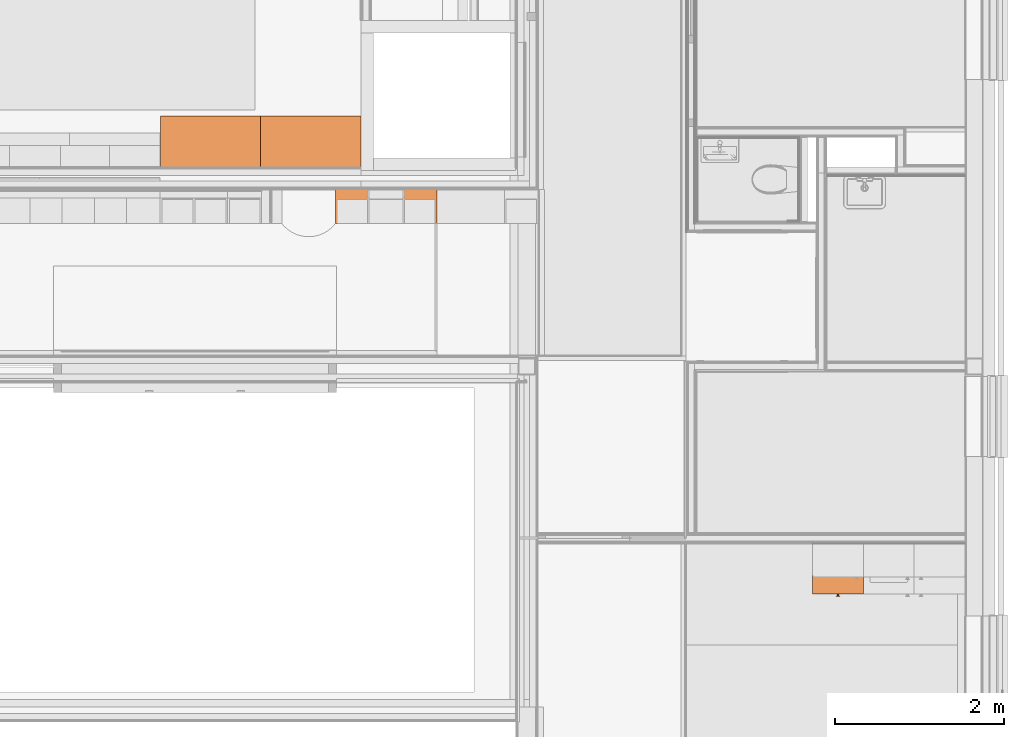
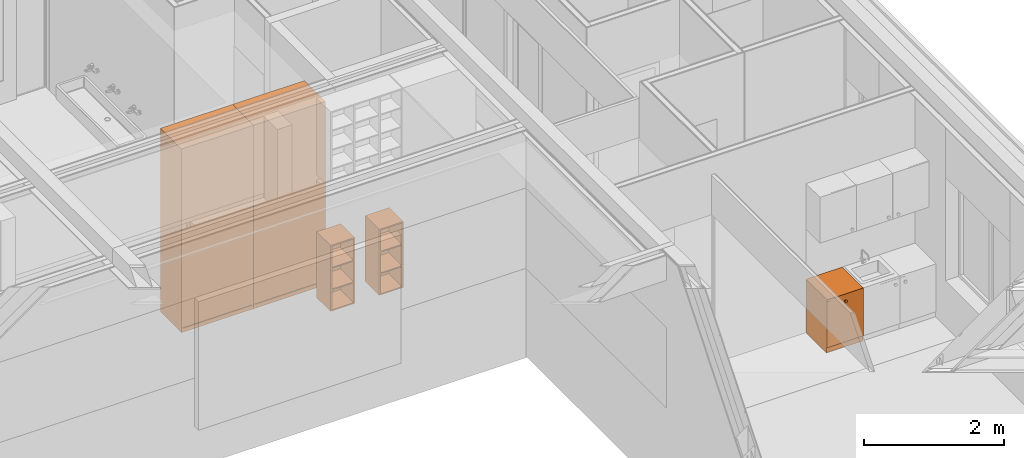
# One storey, part 117 of 137: 5 proxies.
"""IFC2X3 building model written with IfcOpenShell, lengths in millimetres."""

from ifc_helpers import new_model, entity, si_unit, converted_unit, derived_unit, money_unit, direction, frame, origin_with_axes, place, context, subcontext, project, spatial, faceted_brep, source, transform, mapped, type_object, type_shapes, element, save


model = new_model("IFC2X3")

# Units and contexts
model_context = context("Model", 3, precision=0.01, world=origin_with_axes(), true_north=direction((0.0, 1.0)))
body_context = subcontext(model_context, "Body", "Model", "MODEL_VIEW")
ifc_project = project(units=[si_unit("LENGTHUNIT", "METRE", prefix="MILLI"), si_unit("AREAUNIT", "SQUARE_METRE"), si_unit("VOLUMEUNIT", "CUBIC_METRE"), converted_unit("PLANEANGLEUNIT", "DEGREE", entity("IfcPlaneAngleMeasure", 0.0174532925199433), si_unit("PLANEANGLEUNIT", "RADIAN"), dimensions=[0, 0, 0, 0, 0, 0, 0]), money_unit("EUR"), converted_unit("TIMEUNIT", "Year", entity("IfcTimeMeasure", 31556926.0), si_unit("TIMEUNIT", "SECOND"), dimensions=[0, 0, 1, 0, 0, 0, 0]), si_unit("MASSUNIT", "GRAM", prefix="KILO"), si_unit("THERMODYNAMICTEMPERATUREUNIT", "DEGREE_CELSIUS"), si_unit("LUMINOUSINTENSITYUNIT", "LUMEN"), si_unit("ENERGYUNIT", "JOULE", prefix="MEGA"), derived_unit("THERMALCONDUCTANCEUNIT", [(si_unit("POWERUNIT", "WATT"), 1), (si_unit("LENGTHUNIT", "METRE"), -1), (si_unit("THERMODYNAMICTEMPERATUREUNIT", "KELVIN"), -1)]), derived_unit("SPECIFICHEATCAPACITYUNIT", [(si_unit("ENERGYUNIT", "JOULE"), 1), (si_unit("MASSUNIT", "GRAM", prefix="KILO"), -1), (si_unit("THERMODYNAMICTEMPERATUREUNIT", "KELVIN"), -1)]), derived_unit("MASSDENSITYUNIT", [(si_unit("MASSUNIT", "GRAM", prefix="KILO"), 1), (si_unit("VOLUMEUNIT", "CUBIC_METRE"), -1)])], contexts=[model_context])

# Site, building, storey
site_placement = place(None, origin_with_axes())
site = spatial("IfcSite", under=ifc_project, at=site_placement, Name="Site", CompositionType="ELEMENT")
building_placement = place(site_placement, origin_with_axes())
building = spatial("IfcBuilding", under=site, at=building_placement, Name="Naam gebouw", CompositionType="ELEMENT")
storey_placement = place(building_placement, frame((0.0, 0.0, 3960.0), z_axis=(0.0, 0.0, 1.0), x_axis=(1.0, 0.0, 0.0)))
storey = spatial("IfcBuildingStorey", under=building, at=storey_placement, Name="1e verdieping", CompositionType="ELEMENT", Elevation=3960.0)

# Proxies
building_element_proxy_type = type_object("IfcBuildingElementProxyType", Name="Onderkast recht 26", PredefinedType="NOTDEFINED")
shared_shape_1 = source(origin_with_axes(), body_context, "Body", "Brep", [
    faceted_brep([(0.0, -600.0, 900.0), (0.0, -600.0, 935.0), (-600.0, -600.0, 935.0), (-600.0, -600.0, 900.0), (0.0, 0.0, 900.0), (0.0, 0.0, 935.0), (-600.0, 0.0, 935.0), (-600.0, 0.0, 900.0)], [[[0, 1, 2, 3]], [[4, 5, 1, 0]], [[1, 5, 6, 2]], [[3, 2, 6, 7]], [[0, 3, 7, 4]], [[7, 6, 5, 4]]]),
    faceted_brep([(-312.8176930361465, -600.0, 817.9162218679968), (-313.0, -600.0, 820.0), (-312.8176930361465, -600.0, 822.0837781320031), (-312.2763114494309, -600.0, 824.1042417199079), (-311.3923048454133, -600.0, 826.0), (-310.1925333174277, -600.0, 827.7134513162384), (-308.7134513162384, -600.0, 829.1925333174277), (-307.0, -600.0, 830.3923048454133), (-305.104241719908, -600.0, 831.2763114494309), (-303.0837781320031, -600.0, 831.8176930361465), (-301.0, -600.0, 832.0), (-298.9162218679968, -600.0, 831.8176930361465), (-296.895758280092, -600.0, 831.2763114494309), (-295.0, -600.0, 830.3923048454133), (-293.2865486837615, -600.0, 829.1925333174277), (-291.8074666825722, -600.0, 827.7134513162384), (-290.6076951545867, -600.0, 826.0), (-289.7236885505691, -600.0, 824.1042417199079), (-289.1823069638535, -600.0, 822.0837781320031), (-289.0, -600.0, 820.0), (-289.1823069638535, -600.0, 817.9162218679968), (-289.7236885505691, -600.0, 815.895758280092), (-290.6076951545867, -600.0, 814.0), (-291.8074666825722, -600.0, 812.2865486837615), (-293.2865486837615, -600.0, 810.8074666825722), (-295.0, -600.0, 809.6076951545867), (-296.895758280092, -600.0, 808.7236885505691), (-298.9162218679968, -600.0, 808.1823069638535), (-301.0, -600.0, 807.9999999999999), (-303.0837781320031, -600.0, 808.1823069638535), (-305.104241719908, -600.0, 808.7236885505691), (-307.0, -600.0, 809.6076951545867), (-308.7134513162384, -600.0, 810.8074666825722), (-310.1925333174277, -600.0, 812.2865486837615), (-311.3923048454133, -600.0, 814.0), (-312.2763114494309, -600.0, 815.895758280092), (-312.8176930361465, -620.0, 817.9162218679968), (-313.0, -620.0, 820.0), (-312.8176930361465, -620.0, 822.0837781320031), (-312.2763114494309, -620.0, 824.1042417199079), (-311.3923048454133, -620.0, 826.0), (-310.1925333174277, -620.0, 827.7134513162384), (-308.7134513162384, -620.0, 829.1925333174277), (-307.0, -620.0, 830.3923048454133), (-305.104241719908, -620.0, 831.2763114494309), (-303.0837781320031, -620.0, 831.8176930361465), (-301.0, -620.0, 832.0), (-298.9162218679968, -620.0, 831.8176930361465), (-296.895758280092, -620.0, 831.2763114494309), (-295.0, -620.0, 830.3923048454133), (-293.2865486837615, -620.0, 829.1925333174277), (-291.8074666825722, -620.0, 827.7134513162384), (-290.6076951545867, -620.0, 826.0), (-289.7236885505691, -620.0, 824.1042417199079), (-289.1823069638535, -620.0, 822.0837781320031), (-289.0, -620.0, 820.0), (-289.1823069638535, -620.0, 817.9162218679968), (-289.7236885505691, -620.0, 815.895758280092), (-290.6076951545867, -620.0, 814.0), (-291.8074666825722, -620.0, 812.2865486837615), (-293.2865486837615, -620.0, 810.8074666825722), (-295.0, -620.0, 809.6076951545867), (-296.895758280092, -620.0, 808.7236885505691), (-298.9162218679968, -620.0, 808.1823069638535), (-301.0, -620.0, 807.9999999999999), (-303.0837781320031, -620.0, 808.1823069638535), (-305.104241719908, -620.0, 808.7236885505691), (-307.0, -620.0, 809.6076951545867), (-308.7134513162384, -620.0, 810.8074666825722), (-310.1925333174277, -620.0, 812.2865486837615), (-311.3923048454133, -620.0, 814.0), (-312.2763114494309, -620.0, 815.895758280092)], [[[0, 1, 2, 3, 4, 5, 6, 7, 8, 9, 10, 11, 12, 13, 14, 15, 16, 17, 18, 19, 20, 21, 22, 23, 24, 25, 26, 27, 28, 29, 30, 31, 32, 33, 34, 35]], [[0, 36, 37, 1]], [[1, 37, 38, 2]], [[2, 38, 39, 3]], [[3, 39, 40, 4]], [[4, 40, 41, 5]], [[5, 41, 42, 6]], [[6, 42, 43, 7]], [[7, 43, 44, 8]], [[8, 44, 45, 9]], [[9, 45, 46, 10]], [[10, 46, 47, 11]], [[11, 47, 48, 12]], [[12, 48, 49, 13]], [[13, 49, 50, 14]], [[14, 50, 51, 15]], [[15, 51, 52, 16]], [[16, 52, 53, 17]], [[17, 53, 54, 18]], [[18, 54, 55, 19]], [[19, 55, 56, 20]], [[20, 56, 57, 21]], [[21, 57, 58, 22]], [[22, 58, 59, 23]], [[23, 59, 60, 24]], [[24, 60, 61, 25]], [[25, 61, 62, 26]], [[26, 62, 63, 27]], [[27, 63, 64, 28]], [[28, 64, 65, 29]], [[29, 65, 66, 30]], [[30, 66, 67, 31]], [[31, 67, 68, 32]], [[32, 68, 69, 33]], [[33, 69, 70, 34]], [[34, 70, 71, 35]], [[35, 71, 36, 0]], [[36, 71, 70, 69, 68, 67, 66, 65, 64, 63, 62, 61, 60, 59, 58, 57, 56, 55, 54, 53, 52, 51, 50, 49, 48, 47, 46, 45, 44, 43, 42, 41, 40, 39, 38, 37]]]),
    faceted_brep([(-324.6353860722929, -620.0, 815.8324437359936), (-325.0, -620.0, 820.0), (-324.635386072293, -620.0, 824.1675562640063), (-323.5526228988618, -620.0, 828.2084834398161), (-321.7846096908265, -620.0, 832.0), (-319.3850666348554, -620.0, 835.4269026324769), (-316.4269026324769, -620.0, 838.3850666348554), (-313.0, -620.0, 840.7846096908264), (-309.2084834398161, -620.0, 842.5526228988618), (-305.1675562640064, -620.0, 843.6353860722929), (-301.0, -620.0, 844.0), (-296.8324437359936, -620.0, 843.6353860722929), (-292.7915165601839, -620.0, 842.5526228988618), (-289.0, -620.0, 840.7846096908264), (-285.5730973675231, -620.0, 838.3850666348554), (-282.6149333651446, -620.0, 835.4269026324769), (-280.2153903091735, -620.0, 832.0), (-278.4473771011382, -620.0, 828.2084834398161), (-277.364613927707, -620.0, 824.1675562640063), (-277.0, -620.0, 820.0), (-277.364613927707, -620.0, 815.8324437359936), (-278.4473771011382, -620.0, 811.7915165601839), (-280.2153903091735, -620.0, 807.9999999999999), (-282.6149333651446, -620.0, 804.573097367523), (-285.5730973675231, -620.0, 801.6149333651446), (-289.0, -620.0, 799.2153903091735), (-292.7915165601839, -620.0, 797.4473771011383), (-296.8324437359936, -620.0, 796.364613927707), (-301.0, -620.0, 796.0), (-305.1675562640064, -620.0, 796.364613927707), (-309.208483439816, -620.0, 797.4473771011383), (-312.9999999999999, -620.0, 799.2153903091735), (-316.4269026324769, -620.0, 801.6149333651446), (-319.3850666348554, -620.0, 804.573097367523), (-321.7846096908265, -620.0, 807.9999999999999), (-323.5526228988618, -620.0, 811.7915165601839), (-324.6353860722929, -630.0, 815.8324437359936), (-325.0, -630.0, 820.0), (-324.635386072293, -630.0, 824.1675562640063), (-323.5526228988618, -630.0, 828.2084834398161), (-321.7846096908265, -630.0, 832.0), (-319.3850666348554, -630.0, 835.4269026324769), (-316.4269026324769, -630.0, 838.3850666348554), (-313.0, -630.0, 840.7846096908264), (-309.2084834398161, -630.0, 842.5526228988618), (-305.1675562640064, -630.0, 843.6353860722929), (-301.0, -630.0, 844.0), (-296.8324437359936, -630.0, 843.6353860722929), (-292.7915165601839, -630.0, 842.5526228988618), (-289.0, -630.0, 840.7846096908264), (-285.5730973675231, -630.0, 838.3850666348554), (-282.6149333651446, -630.0, 835.4269026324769), (-280.2153903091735, -630.0, 832.0), (-278.4473771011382, -630.0, 828.2084834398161), (-277.364613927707, -630.0, 824.1675562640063), (-277.0, -630.0, 820.0), (-277.364613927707, -630.0, 815.8324437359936), (-278.4473771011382, -630.0, 811.7915165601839), (-280.2153903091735, -630.0, 807.9999999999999), (-282.6149333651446, -630.0, 804.573097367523), (-285.5730973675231, -630.0, 801.6149333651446), (-289.0, -630.0, 799.2153903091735), (-292.7915165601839, -630.0, 797.4473771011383), (-296.8324437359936, -630.0, 796.364613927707), (-301.0, -630.0, 796.0), (-305.1675562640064, -630.0, 796.364613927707), (-309.208483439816, -630.0, 797.4473771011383), (-312.9999999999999, -630.0, 799.2153903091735), (-316.4269026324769, -630.0, 801.6149333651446), (-319.3850666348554, -630.0, 804.573097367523), (-321.7846096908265, -630.0, 807.9999999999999), (-323.5526228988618, -630.0, 811.7915165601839)], [[[0, 1, 2, 3, 4, 5, 6, 7, 8, 9, 10, 11, 12, 13, 14, 15, 16, 17, 18, 19, 20, 21, 22, 23, 24, 25, 26, 27, 28, 29, 30, 31, 32, 33, 34, 35]], [[0, 36, 37, 1]], [[1, 37, 38, 2]], [[2, 38, 39, 3]], [[3, 39, 40, 4]], [[4, 40, 41, 5]], [[5, 41, 42, 6]], [[6, 42, 43, 7]], [[7, 43, 44, 8]], [[8, 44, 45, 9]], [[9, 45, 46, 10]], [[10, 46, 47, 11]], [[11, 47, 48, 12]], [[12, 48, 49, 13]], [[13, 49, 50, 14]], [[14, 50, 51, 15]], [[15, 51, 52, 16]], [[16, 52, 53, 17]], [[17, 53, 54, 18]], [[18, 54, 55, 19]], [[19, 55, 56, 20]], [[20, 56, 57, 21]], [[21, 57, 58, 22]], [[22, 58, 59, 23]], [[23, 59, 60, 24]], [[24, 60, 61, 25]], [[25, 61, 62, 26]], [[26, 62, 63, 27]], [[27, 63, 64, 28]], [[28, 64, 65, 29]], [[29, 65, 66, 30]], [[30, 66, 67, 31]], [[31, 67, 68, 32]], [[32, 68, 69, 33]], [[33, 69, 70, 34]], [[34, 70, 71, 35]], [[35, 71, 36, 0]], [[36, 71, 70, 69, 68, 67, 66, 65, 64, 63, 62, 61, 60, 59, 58, 57, 56, 55, 54, 53, 52, 51, 50, 49, 48, 47, 46, 45, 44, 43, 42, 41, 40, 39, 38, 37]]]),
    faceted_brep([(-1.0, -582.0, 101.0), (-1.0, -600.0, 101.0), (-599.0, -600.0, 101.0), (-599.0, -582.0, 101.0), (-1.0, -582.0, 899.0), (-1.0, -599.9999999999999, 899.0), (-599.0, -599.9999999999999, 899.0), (-599.0, -582.0, 899.0)], [[[0, 1, 2, 3]], [[4, 5, 1, 0]], [[1, 5, 6, 2]], [[3, 2, 6, 7]], [[0, 3, 7, 4]], [[7, 6, 5, 4]]]),
    faceted_brep([(-18.0, -582.0, 100.0), (-18.0, -582.0, 118.0), (-582.0, -582.0, 118.0), (-582.0, -582.0, 100.0), (-18.0, 0.0, 100.0), (-18.0, 0.0, 118.0), (-582.0, 0.0, 118.0), (-582.0, 0.0, 100.0)], [[[0, 1, 2, 3]], [[4, 5, 1, 0]], [[1, 5, 6, 2]], [[3, 2, 6, 7]], [[0, 3, 7, 4]], [[7, 6, 5, 4]]]),
    faceted_brep([(-18.0, -582.0, 882.0), (-582.0, -582.0, 882.0), (-582.0, -522.0, 882.0), (-18.0, -522.0, 882.0), (-18.0, -582.0, 900.0), (-582.0, -582.0, 900.0), (-582.0, -522.0, 900.0), (-18.0, -522.0, 900.0)], [[[0, 1, 2, 3]], [[4, 5, 1, 0]], [[1, 5, 6, 2]], [[3, 2, 6, 7]], [[0, 3, 7, 4]], [[7, 6, 5, 4]]]),
    faceted_brep([(-582.0, 0.0, 882.0), (-18.0, 0.0, 882.0), (-18.0, -60.0, 882.0), (-582.0, -60.0, 882.0), (-582.0, 0.0, 900.0), (-18.0, 0.0, 900.0), (-18.0, -60.0, 900.0), (-582.0, -60.0, 900.0)], [[[0, 1, 2, 3]], [[4, 5, 1, 0]], [[1, 5, 6, 2]], [[3, 2, 6, 7]], [[0, 3, 7, 4]], [[7, 6, 5, 4]]]),
    faceted_brep([(0.0, 0.0, 100.0), (0.0, 0.0, 900.0), (0.0, -582.0, 900.0), (0.0, -582.0, 100.0), (-18.0, 0.0, 100.0), (-18.0, 0.0, 900.0), (-18.0, -582.0, 900.0), (-18.0, -582.0, 100.0)], [[[0, 1, 2, 3]], [[4, 5, 1, 0]], [[1, 5, 6, 2]], [[3, 2, 6, 7]], [[0, 3, 7, 4]], [[7, 6, 5, 4]]]),
    faceted_brep([(-600.0, -582.0, 100.0), (-600.0, -582.0, 900.0), (-600.0, 0.0, 900.0), (-600.0, 0.0, 100.0), (-582.0, -582.0, 100.0), (-582.0, -582.0, 900.0), (-582.0, 0.0, 900.0), (-582.0, 0.0, 100.0)], [[[0, 1, 2, 3]], [[4, 5, 1, 0]], [[1, 5, 6, 2]], [[3, 2, 6, 7]], [[0, 3, 7, 4]], [[7, 6, 5, 4]]]),
    faceted_brep([(-582.0, -9.0, 118.0), (-582.0, -9.0, 882.0), (-18.00000000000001, -9.0, 882.0), (-18.00000000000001, -9.0, 118.0), (-582.0, -18.0, 118.0), (-582.0, -18.0, 882.0), (-18.00000000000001, -18.0, 882.0), (-18.00000000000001, -18.0, 118.0)], [[[0, 1, 2, 3]], [[4, 5, 1, 0]], [[1, 5, 6, 2]], [[3, 2, 6, 7]], [[0, 3, 7, 4]], [[7, 6, 5, 4]]]),
    faceted_brep([(0.0, -582.0, 0.0), (0.0, -582.0, 100.0), (-600.0, -582.0, 100.0), (-600.0, -582.0, 0.0), (0.0, 0.0, 0.0), (0.0, 0.0, 100.0), (-600.0, 0.0, 100.0), (-600.0, 0.0, 0.0)], [[[0, 1, 2, 3]], [[4, 5, 1, 0]], [[1, 5, 6, 2]], [[3, 2, 6, 7]], [[0, 3, 7, 4]], [[7, 6, 5, 4]]]),
])
proxy_placement = place(storey_placement, frame((28485.99999999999, 8715.0, 0.0), z_axis=(0.0, 0.0, 1.0), x_axis=(1.0, 0.0, 0.0)))
element("IfcBuildingElementProxy", 1, at=proxy_placement, inside=storey, type_object=building_element_proxy_type, Name="_Leeg", context=body_context, shape_type="MappedRepresentation", body=[
    mapped(shared_shape_1, transform((0.0, 0.0, 0.0))),
])
shared_shape_2 = source(origin_with_axes(), body_context, "Body", "Brep", [
    faceted_brep([(-20.0, -399.9999999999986, 366.6666666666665), (-20.0, -399.9999999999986, 384.6666666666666), (-379.9999999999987, -399.9999999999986, 384.6666666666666), (-379.9999999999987, -399.9999999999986, 366.6666666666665), (-20.0, -20.0, 366.6666666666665), (-20.0, -20.0, 384.6666666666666), (-379.9999999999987, -20.0, 384.6666666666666), (-379.9999999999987, -20.0, 366.6666666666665)], [[[0, 1, 2, 3]], [[4, 5, 1, 0]], [[1, 5, 6, 2]], [[3, 2, 6, 7]], [[0, 3, 7, 4]], [[7, 6, 5, 4]]]),
    faceted_brep([(-20.0, -399.9999999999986, 743.3333333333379), (-20.0, -399.9999999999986, 761.3333333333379), (-379.9999999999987, -399.9999999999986, 761.3333333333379), (-379.9999999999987, -399.9999999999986, 743.3333333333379), (-20.0, -20.0, 743.3333333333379), (-20.0, -20.0, 761.3333333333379), (-379.9999999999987, -20.0, 761.3333333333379), (-379.9999999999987, -20.0, 743.3333333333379)], [[[0, 1, 2, 3]], [[4, 5, 1, 0]], [[1, 5, 6, 2]], [[3, 2, 6, 7]], [[0, 3, 7, 4]], [[7, 6, 5, 4]]]),
    faceted_brep([(-20.0, -399.9999999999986, 0.0), (-20.0, -399.9999999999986, 20.0), (-379.9999999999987, -399.9999999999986, 20.0), (-379.9999999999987, -399.9999999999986, 0.0), (-20.0, 0.0, 0.0), (-20.0, 0.0, 20.0), (-379.9999999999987, 0.0, 20.0), (-379.9999999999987, 0.0, 0.0)], [[[0, 1, 2, 3]], [[4, 5, 1, 0]], [[1, 5, 6, 2]], [[3, 2, 6, 7]], [[0, 3, 7, 4]], [[7, 6, 5, 4]]]),
    faceted_brep([(-20.0, -399.9999999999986, 1129.999999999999), (-20.0, -399.9999999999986, 1149.999999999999), (-379.9999999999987, -399.9999999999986, 1149.999999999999), (-379.9999999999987, -399.9999999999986, 1129.999999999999), (-20.0, 0.0, 1129.999999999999), (-20.0, 0.0, 1149.999999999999), (-379.9999999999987, 0.0, 1149.999999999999), (-379.9999999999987, 0.0, 1129.999999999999)], [[[0, 1, 2, 3]], [[4, 5, 1, 0]], [[1, 5, 6, 2]], [[3, 2, 6, 7]], [[0, 3, 7, 4]], [[7, 6, 5, 4]]]),
    faceted_brep([(0.0, 0.0, 0.0), (0.0, 0.0, 1149.999999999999), (0.0, -399.9999999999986, 1149.999999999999), (0.0, -399.9999999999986, 0.0), (-20.0, 0.0, 0.0), (-20.0, 0.0, 1149.999999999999), (-20.0, -399.9999999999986, 1149.999999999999), (-20.0, -399.9999999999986, 0.0)], [[[0, 1, 2, 3]], [[4, 5, 1, 0]], [[1, 5, 6, 2]], [[3, 2, 6, 7]], [[0, 3, 7, 4]], [[7, 6, 5, 4]]]),
    faceted_brep([(-399.9999999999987, -399.9999999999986, 0.0), (-399.9999999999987, -399.9999999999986, 1149.999999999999), (-399.9999999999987, 0.0, 1149.999999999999), (-399.9999999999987, 0.0, 0.0), (-379.9999999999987, -399.9999999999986, 0.0), (-379.9999999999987, -399.9999999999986, 1149.999999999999), (-379.9999999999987, 0.0, 1149.999999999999), (-379.9999999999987, 0.0, 0.0)], [[[0, 1, 2, 3]], [[4, 5, 1, 0]], [[1, 5, 6, 2]], [[3, 2, 6, 7]], [[0, 3, 7, 4]], [[7, 6, 5, 4]]]),
    faceted_brep([(-379.9999999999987, -10.0, 20.0), (-379.9999999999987, -10.0, 1129.999999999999), (-20.00000000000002, -10.0, 1129.999999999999), (-20.00000000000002, -10.0, 20.0), (-379.9999999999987, -20.0, 20.0), (-379.9999999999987, -20.0, 1129.999999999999), (-20.00000000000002, -20.0, 1129.999999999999), (-20.00000000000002, -20.0, 20.0)], [[[0, 1, 2, 3]], [[4, 5, 1, 0]], [[1, 5, 6, 2]], [[3, 2, 6, 7]], [[0, 3, 7, 4]], [[7, 6, 5, 4]]]),
])
for number, where, z_axis, x_axis in (
    (2, (23434.99903999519, 12904.99778166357, 49.99999999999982), (0.0, 0.0, 1.0), (1.0, 0.0, 0.0)),
    (3, (22634.99903999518, 12904.99778166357, 49.99999999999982), (0.0, 0.0, 1.0), (1.0, 0.0, 0.0)),
):
    element("IfcBuildingElementProxy", number, at=place(storey_placement, frame(where, z_axis=z_axis, x_axis=x_axis)), inside=storey, type_object=building_element_proxy_type, Name="_Leeg", context=body_context, shape_type="MappedRepresentation", body=[
        mapped(shared_shape_2, transform((0.0, 0.0, 0.0))),
    ])
shared_shape_3 = source(origin_with_axes(), body_context, "Body", "Brep", [
    faceted_brep([(20.0, -564.0000000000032, 731.6666666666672), (1165.0, -564.0000000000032, 731.6666666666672), (1165.0, -564.0000000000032, 749.6666666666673), (20.0, -564.0000000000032, 749.6666666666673), (20.0, -20.0, 731.6666666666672), (1165.0, -20.0, 731.6666666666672), (1165.0, -20.0, 749.6666666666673), (20.0, -20.0, 749.6666666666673)], [[[0, 1, 2, 3]], [[0, 4, 5, 1]], [[1, 5, 6, 2]], [[3, 2, 6, 7]], [[4, 0, 3, 7]], [[5, 4, 7, 6]]]),
    faceted_brep([(20.0, -564.0000000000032, 1411.333333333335), (1165.0, -564.0000000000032, 1411.333333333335), (1165.0, -564.0000000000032, 1429.333333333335), (20.0, -564.0000000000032, 1429.333333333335), (20.0, -20.0, 1411.333333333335), (1165.0, -20.0, 1411.333333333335), (1165.0, -20.0, 1429.333333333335), (20.0, -20.0, 1429.333333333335)], [[[0, 1, 2, 3]], [[0, 4, 5, 1]], [[1, 5, 6, 2]], [[3, 2, 6, 7]], [[4, 0, 3, 7]], [[5, 4, 7, 6]]]),
    faceted_brep([(20.0, -600.0000000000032, 2091.000000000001), (1165.0, -600.0000000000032, 2091.000000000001), (1165.0, -600.0000000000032, 2109.000000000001), (20.0, -600.0000000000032, 2109.000000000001), (20.0, -20.0, 2091.000000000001), (1165.0, -20.0, 2091.000000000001), (1165.0, -20.0, 2109.000000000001), (20.0, -20.0, 2109.000000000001)], [[[0, 1, 2, 3]], [[0, 4, 5, 1]], [[1, 5, 6, 2]], [[3, 2, 6, 7]], [[4, 0, 3, 7]], [[5, 4, 7, 6]]]),
    faceted_brep([(20.0, -564.0000000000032, 2635.500000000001), (1165.0, -564.0000000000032, 2635.500000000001), (1165.0, -564.0000000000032, 2653.5), (20.0, -564.0000000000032, 2653.5), (20.0, -20.0, 2635.500000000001), (1165.0, -20.0, 2635.500000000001), (1165.0, -20.0, 2653.5), (20.0, -20.0, 2653.5)], [[[0, 1, 2, 3]], [[0, 4, 5, 1]], [[1, 5, 6, 2]], [[3, 2, 6, 7]], [[4, 0, 3, 7]], [[5, 4, 7, 6]]]),
    faceted_brep([(21.0, -582.0000000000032, 71.00000000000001), (601.5, -582.0000000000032, 71.00000000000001), (601.5, -600.0000000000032, 71.00000000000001), (21.0, -600.0000000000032, 71.00000000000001), (21.0, -582.0000000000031, 2090.000000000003), (601.5, -582.0000000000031, 2090.000000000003), (601.5, -600.0000000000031, 2090.000000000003), (21.0, -600.0000000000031, 2090.000000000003)], [[[0, 1, 2, 3]], [[0, 4, 5, 1]], [[1, 5, 6, 2]], [[3, 2, 6, 7]], [[4, 0, 3, 7]], [[5, 4, 7, 6]]]),
    faceted_brep([(583.5, -564.0000000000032, 71.00000000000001), (1164.0, -564.0000000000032, 71.00000000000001), (1164.0, -582.0000000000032, 71.00000000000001), (583.5, -582.0000000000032, 71.00000000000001), (583.5, -564.0000000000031, 2090.000000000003), (1164.0, -564.0000000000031, 2090.000000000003), (1164.0, -582.0000000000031, 2090.000000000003), (583.5, -582.0000000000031, 2090.000000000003)], [[[0, 1, 2, 3]], [[0, 4, 5, 1]], [[1, 5, 6, 2]], [[3, 2, 6, 7]], [[4, 0, 3, 7]], [[5, 4, 7, 6]]]),
    faceted_brep([(21.0, -582.0000000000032, 2110.000000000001), (601.5, -582.0000000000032, 2110.000000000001), (601.5, -600.0000000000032, 2110.000000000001), (21.0, -600.0000000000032, 2110.000000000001), (21.0, -582.0000000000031, 3179.0), (601.5, -582.0000000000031, 3179.0), (601.5, -600.0000000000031, 3179.0), (21.0, -600.0000000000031, 3179.0)], [[[0, 1, 2, 3]], [[0, 4, 5, 1]], [[1, 5, 6, 2]], [[3, 2, 6, 7]], [[4, 0, 3, 7]], [[5, 4, 7, 6]]]),
    faceted_brep([(583.5, -564.0000000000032, 2110.000000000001), (1164.0, -564.0000000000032, 2110.000000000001), (1164.0, -582.0000000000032, 2110.000000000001), (583.5, -582.0000000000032, 2110.000000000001), (583.5, -564.0000000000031, 3179.0), (1164.0, -564.0000000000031, 3179.0), (1164.0, -582.0000000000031, 3179.0), (583.5, -582.0000000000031, 3179.0)], [[[0, 1, 2, 3]], [[0, 4, 5, 1]], [[1, 5, 6, 2]], [[3, 2, 6, 7]], [[4, 0, 3, 7]], [[5, 4, 7, 6]]]),
    faceted_brep([(20.0, -600.0000000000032, 50.0), (1165.0, -600.0000000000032, 50.0), (1165.0, -600.0000000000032, 70.0), (20.0, -600.0000000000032, 70.0), (20.0, 0.0, 50.0), (1165.0, 0.0, 50.0), (1165.0, 0.0, 70.0), (20.0, 0.0, 70.0)], [[[0, 1, 2, 3]], [[0, 4, 5, 1]], [[1, 5, 6, 2]], [[3, 2, 6, 7]], [[4, 0, 3, 7]], [[5, 4, 7, 6]]]),
    faceted_brep([(20.0, -600.0000000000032, 3180.0), (1165.0, -600.0000000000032, 3180.0), (1165.0, -600.0000000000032, 3200.0), (20.0, -600.0000000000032, 3200.0), (20.0, 0.0, 3180.0), (1165.0, 0.0, 3180.0), (1165.0, 0.0, 3200.0), (20.0, 0.0, 3200.0)], [[[0, 1, 2, 3]], [[0, 4, 5, 1]], [[1, 5, 6, 2]], [[3, 2, 6, 7]], [[4, 0, 3, 7]], [[5, 4, 7, 6]]]),
    faceted_brep([(0.0, 0.0, 50.0), (0.0, -600.0000000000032, 50.0), (0.0, -600.0000000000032, 3200.0), (0.0, 0.0, 3200.0), (20.0, 0.0, 50.0), (20.0, -600.0000000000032, 50.0), (20.0, -600.0000000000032, 3200.0), (20.0, 0.0, 3200.0)], [[[0, 1, 2, 3]], [[0, 4, 5, 1]], [[1, 5, 6, 2]], [[3, 2, 6, 7]], [[4, 0, 3, 7]], [[5, 4, 7, 6]]]),
    faceted_brep([(1185.0, -600.0000000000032, 50.0), (1185.0, 0.0, 50.0), (1185.0, 0.0, 3200.0), (1185.0, -600.0000000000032, 3200.0), (1165.0, -600.0000000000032, 50.0), (1165.0, 0.0, 50.0), (1165.0, 0.0, 3200.0), (1165.0, -600.0000000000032, 3200.0)], [[[0, 1, 2, 3]], [[0, 4, 5, 1]], [[1, 5, 6, 2]], [[3, 2, 6, 7]], [[4, 0, 3, 7]], [[5, 4, 7, 6]]]),
    faceted_brep([(1165.0, -10.0, 70.0), (20.00000000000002, -10.0, 70.0), (20.00000000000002, -10.0, 3180.0), (1165.0, -10.0, 3180.0), (1165.0, -20.0, 70.0), (20.00000000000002, -20.0, 70.0), (20.00000000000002, -20.0, 3180.0), (1165.0, -20.0, 3180.0)], [[[0, 1, 2, 3]], [[0, 4, 5, 1]], [[1, 5, 6, 2]], [[3, 2, 6, 7]], [[4, 0, 3, 7]], [[5, 4, 7, 6]]]),
    faceted_brep([(0.0, -600.0000000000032, 0.0), (1185.0, -600.0000000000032, 0.0), (1185.0, -600.0000000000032, 50.0), (0.0, -600.0000000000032, 50.0), (0.0, 0.0, 0.0), (1185.0, 0.0, 0.0), (1185.0, 0.0, 50.0), (0.0, 0.0, 50.0)], [[[0, 1, 2, 3]], [[0, 4, 5, 1]], [[1, 5, 6, 2]], [[3, 2, 6, 7]], [[4, 0, 3, 7]], [[5, 4, 7, 6]]]),
])
type_shapes(building_element_proxy_type, [shared_shape_1, shared_shape_2, shared_shape_3])
for number, where, z_axis, x_axis in (
    (4, (22534.99903999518, 13174.99778166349, 0.0), (0.0, 0.0, 1.0), (-1.0, 0.0, 0.0)),
    (5, (21349.99903999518, 13174.99778166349, 0.0), (0.0, 0.0, 1.0), (-1.0, 0.0, 0.0)),
):
    element("IfcBuildingElementProxy", number, at=place(storey_placement, frame(where, z_axis=z_axis, x_axis=x_axis)), inside=storey, type_object=building_element_proxy_type, Name="_Leeg", context=body_context, shape_type="MappedRepresentation", body=[
        mapped(shared_shape_3, transform((0.0, 0.0, 0.0))),
    ])

save(model, "model.ifc")
